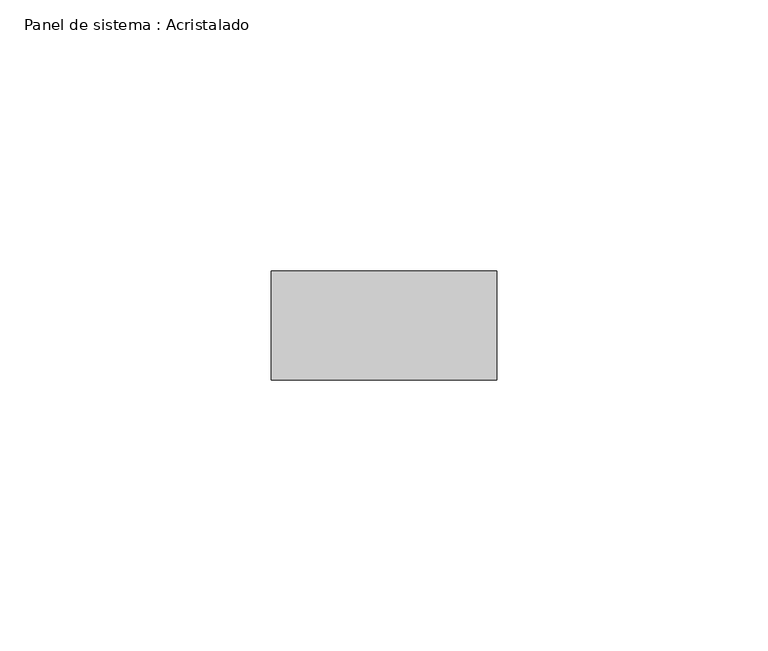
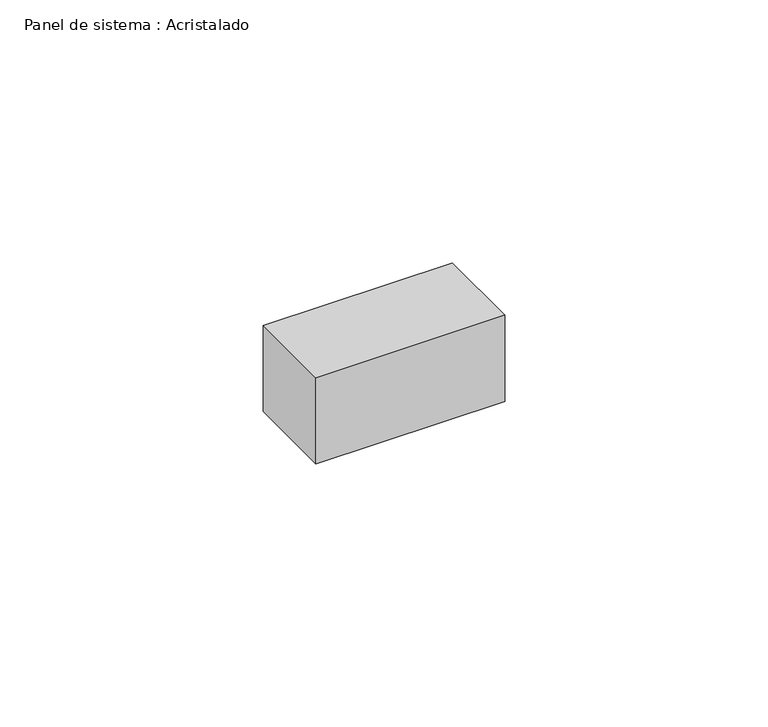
"""IFC4 building model written with IfcOpenShell, lengths in millimetres: plate geometry, Panel de sistema : Acristalado."""

from ifc_helpers import new_model, si_unit, origin, origin_with_axes, place, context, project, spatial, polyline, outline, extrude, source, transform, mapped, element, save


def panel_de_sistema_acristalado_c480c750(model_context):
    return source(origin(), model_context, "Body", "SweptSolid", [
        extrude(outline(polyline([(20.7352306, -10.0), (-20.7352306, -10.0), (-20.7352306, 10.0), (20.7352306, 10.0), (20.7352306, -10.0)])), origin_with_axes(), (0.0, 0.0, 1.0), 20.0),
    ])


if __name__ == "__main__":
    model = new_model("IFC4")
    model_context = context("Model", 3, world=origin())
    ifc_project = project(units=[si_unit("LENGTHUNIT", "METRE", prefix="MILLI")], contexts=[model_context])
    site = spatial("IfcSite", under=ifc_project)
    building = spatial("IfcBuilding", under=site)
    placement = place(None, origin())
    panel_de_sistema_acristalado_shape = panel_de_sistema_acristalado_c480c750(model_context)
    element("IfcPlate", 1, ObjectType="Panel de sistema : Acristalado", at=placement, inside=building, context=model_context, shape_type="MappedRepresentation", body=[
        mapped(panel_de_sistema_acristalado_shape, transform((0.0, 0.0, 0.0), x_axis=(1.0, 0.0, 0.0), y_axis=(0.0, 1.0, 0.0), z_axis=(0.0, 0.0, 1.0))),
    ])
    save(model, "model.ifc")
